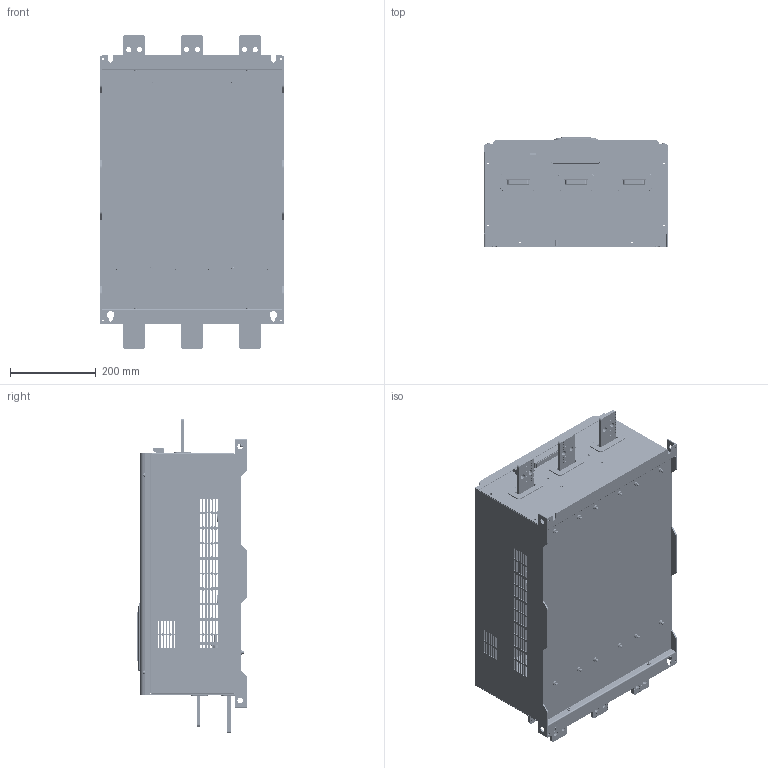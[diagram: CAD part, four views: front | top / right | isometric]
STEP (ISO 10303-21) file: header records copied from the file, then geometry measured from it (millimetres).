
FILE_DESCRIPTION((''),'2;1');
FILE_NAME('EX9QR5-1000-D_ASM','2023-07-17T12:58:57',('ruanmm'),(''),'CREO PARAMETRIC BY PTC INC, 2020044','CREO PARAMETRIC BY PTC INC, 2020044','');
FILE_SCHEMA(('CONFIG_CONTROL_DESIGN','SHAPE_APPEARANCE_LAYERS_GROUPS'));
Products named in the file (108): NJR3-F4-WK-1_6_1; S-M5-2_2_1; E-M8_3_1; S-M6-2_2_1; NJR3-F4-WK-1-ASM_ASM_7_ASM_1_ASM; NJR3-F4-CEB-Z-1_10_1; S-M4-2_2_1; NJR3-F4-CEB-Z-1-ASM_ASM_72_ASM__ASM; NJR3-F4-ZHIJIA-1-1_2_1; NJR3-F4-ZHIJIA-1-1__ASM_2_ASM_1_ASM; EX9QR5-370-D-BXJ_2_1; NJR3-F4-CEB-Z-1__ASM_8_ASM_1_ASM; NJR3-F4-CEB-Y-1_9_1; NJR3-F4-CEB-Y-1-ASM_ASM_10_ASM__ASM; NJR3-F4-CEB-Y-1__ASM_9_ASM_1_ASM; NJR3-F4-DIZUO_ASM_17_ASM_1_ASM; TOP-PLATE-NEW_11_1; NED-PL-A_2_1; PRT0003_2_1; TOP-PLATE-NEW-ASM_ASM_8_ASM_1_ASM; PVC-POST_2_1; GB-T9074-4-M4-10_2_1; PVC-POST-L-N_3_1; EX9QR5-D-BOX-PLAY_13_4_1; SHANGGAI-XIN__2_1_2_1; M3TONG__1_1_2_1; PCB-BL_1_2_1; XLB-XIN-3_ASM_1_ASM_2_ASM_1_ASM; MANIFOLD_SOLID_BREP_40621_1_1_2; MANIFOLD_SOLID_BREP_40621_1_2_2; MANIFOLD_SOLID_BREP_40621_1_3_2; MANIFOLD_SOLID_BREP_40621_1_4_2; MANIFOLD_SOLID_BREP_40621_1_5_2; MANIFOLD_SOLID_BREP_40621_1_6_2; MANIFOLD_SOLID_BREP_40621_1_7_2; MANIFOLD_SOLID_BREP_40621_1_8_2; MANIFOLD_SOLID_BREP_40621_1_9_2; MANIFOLD_SOLID_BREP_40621_1_10_; MANIFOLD_SOLID_BREP_40621_1_11_; MANIFOLD_SOLID_BREP_40621_1_12_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
Assembly tree (186 placements, depth 11):
  EX9QR5-1000-D_ASM
    ASM0003_ASM_1_ASM
      EX9QR5-500-4-D_ASM_71_ASM_1_ASM
        EX9QR5-1000-BOX-000_ASM_26_ASM__ASM
          NJR3-F4-DIZUO_ASM_17_ASM_1_ASM
            NJR3-F4-WK-1-ASM_ASM_7_ASM_1_ASM
              NJR3-F4-WK-1_6_1
              S-M5-2_2_1  x4
              E-M8_3_1
              S-M6-2_2_1  x12
            NJR3-F4-CEB-Z-1__ASM_8_ASM_1_ASM
              NJR3-F4-CEB-Z-1-ASM_ASM_72_ASM__ASM
                NJR3-F4-CEB-Z-1_10_1
                S-M4-2_2_1  x2
                S-M5-2_2_1  x4
              NJR3-F4-ZHIJIA-1-1__ASM_2_ASM_1_ASM  x3
                NJR3-F4-ZHIJIA-1-1_2_1
                S-M4-2_2_1
              EX9QR5-370-D-BXJ_2_1  x2
            NJR3-F4-CEB-Y-1__ASM_9_ASM_1_ASM
              NJR3-F4-CEB-Y-1-ASM_ASM_10_ASM__ASM
                NJR3-F4-CEB-Y-1_9_1
                S-M4-2_2_1  x2
                S-M5-2_2_1  x4
              NJR3-F4-ZHIJIA-1-1__ASM_2_ASM_1_ASM  x3
                NJR3-F4-ZHIJIA-1-1_2_1
                S-M4-2_2_1
          EX9QR5-1000-DOOR-000_ASM_10_ASM_ASM
            TOP-PLATE-NEW-ASM_ASM_8_ASM_1_ASM
              TOP-PLATE-NEW_11_1
              NED-PL-A_2_1
              PRT0003_2_1
            PVC-POST_2_1
            GB-T9074-4-M4-10_2_1  x4
            PVC-POST-L-N_3_1
            EX9QR5-D-BOX-ASSEMBLY_ASM_ASM_2_ASM
              EX9QR5-D-BOX-ASSEMBLY_ASM_3_ASM_ASM
                EX9QR5-D-BOX-PLAY_13_4_1
                ZHONGZHUTU2__ASM_1_ASM_1_ASM_2__ASM
                  SHANGGAI-XIN__2_1_2_1
                  M3TONG__1_1_2_1  x4
                  XLB-XIN-3_ASM_1_ASM_2_ASM_1_ASM
                  XSGMP-75ZX-M__2_ASM_1_ASM_2_ASM_ASM
                  YKL-75ZX__2_1_2_1
            NP_2_1
          EX9QR5-180-CEB-Q-ASM_ASM_11_ASM_ASM
            NJR3-F4-CEB-Q-1_17_1
          EX9QR5-180-CEB--H-ASM_ASM_8_ASM_ASM
            EX9QR5-180-CEB-Q-1_17_1
        EQ9QR5-1000-ASM-ALL_ASM_29_ASM__ASM
          EQ9QR5-180-ASM-1_ASM_17_ASM_1_ASM
            SOOS-M3-10-ZI_1_1  x10
          DYB-1_ASM_1_ASM_21_ASM_1_ASM
            CPU-DIANYUANBAN-ASM_ASM_2-22518_ASM
              CPU-DIANYUANBAN-ASM_ASM_2-15049
            PLASTIC-HASAMI_5_1_1_1
          SOOS-M3-10-ZI_1_1  x4
          PCB-ZJB_1_1_3_1_1
          EX9QR5-180-DYJYP_3_1
          S-M4-2_2_1  x4
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Bounding box: 428 x 257.1 x 735 mm (x, y, z)
Volume: 2932295.6 mm3; surface area: 2766254.1 mm2
Topology: 218 solids, 231 shells, 23275 faces, 62529 edges, 41457 vertices
Faces by surface type: plane 19852, cylinder 2053, extrusion 1128, torus 94, cone 60, bspline 50, sphere 38
Entity records: 439075 total; most frequent: CARTESIAN_POINT 79302, ORIENTED_EDGE 61156, DIRECTION 52711, EDGE_CURVE 30580, VECTOR 26949, LINE 25821, VERTEX_POINT 20263, AXIS2_PLACEMENT_3D 12881
